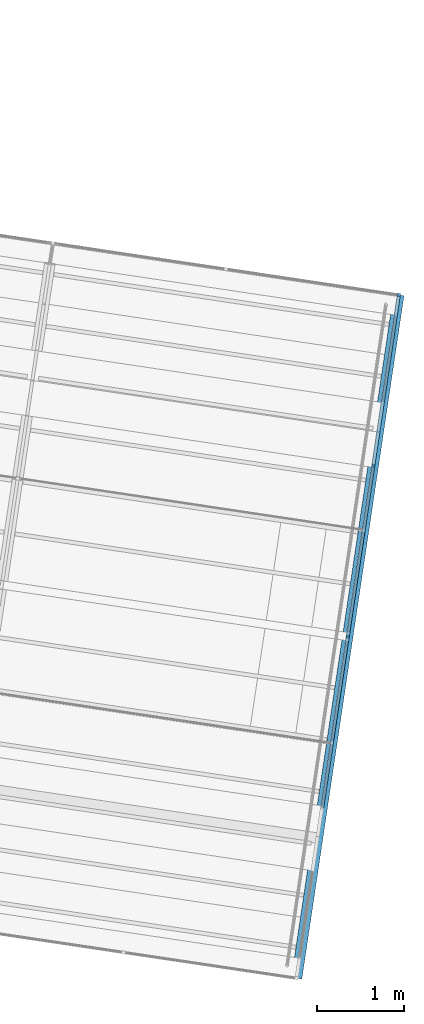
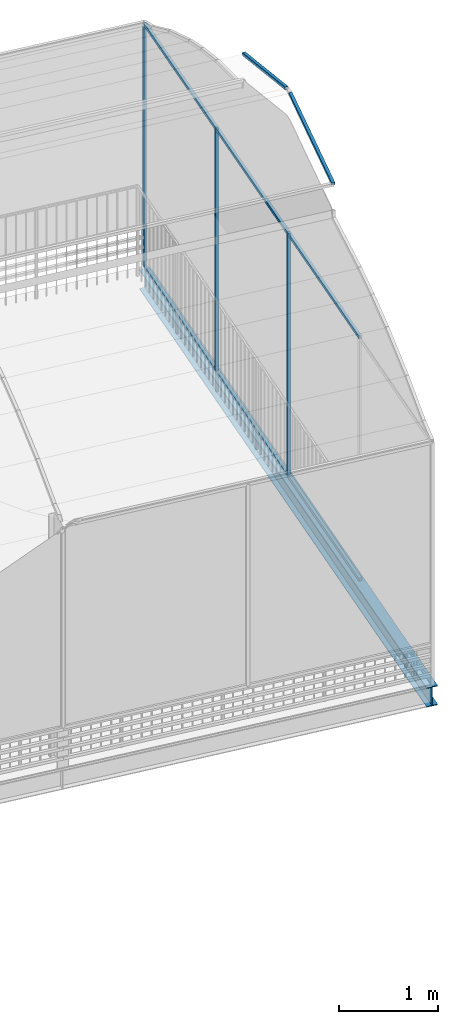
# One storey, part 17 of 34: 14 members, 1 beam, 1 element without a shape of its own.
"""IFC4 building model written with IfcOpenShell, lengths in metres."""

import ifcopenshell
import ifcopenshell.guid

model = None  # the IFC model being written
_history = None  # IfcOwnerHistory: only IFC2X3 demands one
_inside = {}  # id of a spatial element -> (the spatial element, [elements in it])
_under = {}  # id of a project, library or spatial element -> (it, [spatial elements below it])
_declared = {}  # id of a project -> (the project, [libraries it declares])
_typed = {}  # id of a type object -> (the type object, [elements of that type])
_made_of = {}  # id of a material, layer set ... -> (it, [elements and type objects made of it])


def new_model(schema):
    """Start an empty IFC model of exactly this schema.

    Asked for "IFC4X3", IfcOpenShell would pick the latest addendum, in which some entities
    have other attributes; the version numbers below select the first issue.
    IFC2X3 requires an IfcOwnerHistory on every rooted entity: one is made here for all.
    """
    global model, _history
    if schema == "IFC4X3":
        model = ifcopenshell.file(schema_version=(4, 3, 0, 0))
    else:
        model = ifcopenshell.file(schema=schema)
    _inside.clear()
    _under.clear()
    _declared.clear()
    _typed.clear()
    _made_of.clear()
    _history = None
    if model.schema == "IFC2X3":
        org = make("IfcOrganization", Name="unknown")
        user = make(
            "IfcPersonAndOrganization",
            ThePerson=make("IfcPerson", FamilyName="unknown"),
            TheOrganization=org,
        )
        app = make(
            "IfcApplication",
            ApplicationDeveloper=org,
            Version="unknown",
            ApplicationFullName="unknown",
            ApplicationIdentifier="unknown",
        )
        _history = make(
            "IfcOwnerHistory",
            OwningUser=user,
            OwningApplication=app,
            ChangeAction="ADDED",
            CreationDate=0,
        )
    return model


def make(cls, **values):
    """One entity of the class cls with the attributes given. An attribute that is None is left unset."""
    return model.create_entity(
        cls, **{name: value for name, value in values.items() if value is not None}
    )


def rooted(cls, **values):
    """An entity with a GlobalId (a new one), such as an element, a storey or a relation."""
    return make(cls, GlobalId=ifcopenshell.guid.new(), OwnerHistory=_history, **values)


def si_unit(unit_type, name, prefix=None):
    """IfcSIUnit, for example si_unit("LENGTHUNIT", "METRE", prefix="MILLI")."""
    return make("IfcSIUnit", UnitType=unit_type, Prefix=prefix, Name=name)


def assignment(units):
    """IfcUnitAssignment: the units of a project."""
    return None if units is None else make("IfcUnitAssignment", Units=units)


def point(xyz):
    """IfcCartesianPoint."""
    return None if xyz is None else make("IfcCartesianPoint", Coordinates=xyz)


def direction(xyz):
    """IfcDirection."""
    return None if xyz is None else make("IfcDirection", DirectionRatios=xyz)


def frame(location, z_axis=None, x_axis=None):
    """IfcAxis2Placement3D, a coordinate frame: its origin and axes. An axis left out is left unset."""
    return make(
        "IfcAxis2Placement3D",
        Location=point(location),
        Axis=direction(z_axis),
        RefDirection=direction(x_axis),
    )


def origin_with_axes():
    """The frame at (0, 0, 0) with the z axis (0, 0, 1) and the x axis (1, 0, 0) written out."""
    return frame((0.0, 0.0, 0.0), z_axis=(0.0, 0.0, 1.0), x_axis=(1.0, 0.0, 0.0))


def place(relative_to, where):
    """IfcLocalPlacement: puts the frame where relative to a parent placement (None: the world)."""
    return make(
        "IfcLocalPlacement", PlacementRelTo=relative_to, RelativePlacement=where
    )


def context(
    kind, dimensions, precision=None, world=None, true_north=None, identifier=None
):
    """IfcGeometricRepresentationContext, for example the 3D "Model" context."""
    return make(
        "IfcGeometricRepresentationContext",
        ContextIdentifier=identifier,
        ContextType=kind,
        CoordinateSpaceDimension=dimensions,
        Precision=precision,
        WorldCoordinateSystem=world,
        TrueNorth=true_north,
    )


def subcontext(parent, identifier, kind, view, scale=None):
    """IfcGeometricRepresentationSubContext, for example "Body" below "Model"."""
    return make(
        "IfcGeometricRepresentationSubContext",
        ContextIdentifier=identifier,
        ContextType=kind,
        ParentContext=parent,
        TargetScale=scale,
        TargetView=view,
    )


def project(units=None, contexts=None):
    """IfcProject with its units and contexts."""
    return rooted(
        "IfcProject",
        Name="project",
        RepresentationContexts=contexts,
        UnitsInContext=assignment(units),
    )


def spatial(cls, under=None, at=None, **own):
    """A site, building, storey or space (cls), placed at a placement, below another one or the project."""
    s = rooted(cls, ObjectPlacement=at, **own)
    if under is not None:
        _under.setdefault(under.id(), (under, []))[1].append(s)
    return s


def profile(cls, at=None, kind="AREA", **sizes):
    """A parametric profile (cls). Its sizes go by their IFC names, for example OverallWidth=200.0."""
    return make(cls, ProfileType=kind, Position=at, **sizes)


def rectangle(**sizes):
    """IfcRectangleProfileDef."""
    return profile("IfcRectangleProfileDef", **sizes)


def i_section(**sizes):
    """IfcIShapeProfileDef."""
    return profile("IfcIShapeProfileDef", **sizes)


def extrude(swept, where, along, depth):
    """IfcExtrudedAreaSolid: the profile swept, set in the frame where, extruded along a direction by depth."""
    return make(
        "IfcExtrudedAreaSolid",
        SweptArea=swept,
        Position=where,
        ExtrudedDirection=direction(along),
        Depth=depth,
    )


def shape(context_of_items, identifier, shape_type, items):
    """IfcShapeRepresentation: the items that make up one representation, for example the "Body"."""
    return make(
        "IfcShapeRepresentation",
        ContextOfItems=context_of_items,
        RepresentationIdentifier=identifier,
        RepresentationType=shape_type,
        Items=items,
    )


def material(Name=None, Category=None):
    """IfcMaterial."""
    return make("IfcMaterial", Name=Name, Category=Category)


def material_profile(
    of_material, cross_section, Name=None, Category=None, Priority=None
):
    """IfcMaterialProfile: a cross section and its material."""
    return make(
        "IfcMaterialProfile",
        Name=Name,
        Material=of_material,
        Profile=cross_section,
        Priority=Priority,
        Category=Category,
    )


def profile_set(profiles, Name=None, composite=None):
    """IfcMaterialProfileSet."""
    return make(
        "IfcMaterialProfileSet",
        Name=Name,
        MaterialProfiles=profiles,
        CompositeProfile=composite,
    )


def profile_usage(for_profile_set, cardinal=None, extent=None):
    """IfcMaterialProfileSetUsage: how a profile set lies along its element."""
    return make(
        "IfcMaterialProfileSetUsage",
        ForProfileSet=for_profile_set,
        CardinalPoint=cardinal,
        ReferenceExtent=extent,
    )


def made_of(thing, what):
    """Note that an element or type object is made of a material, layer set ...; save() writes the relation."""
    if what is not None:
        _made_of.setdefault(what.id(), (what, []))[1].append(thing)
    return thing


def type_object(cls, material=None, **own):
    """A type object (cls), such as IfcWallType, which elements share."""
    return made_of(rooted(cls, **own), material)


def element(
    cls,
    number,
    at=None,
    inside=None,
    cuts=None,
    type_object=None,
    material=None,
    context=None,
    identifier="Body",
    shape_type=None,
    held_by="IfcProductDefinitionShape",
    body=None,
    shapes=None,
    **own,
):
    """One element of the class cls, such as IfcWall. Its Tag is "e" and its number.

    at: its placement. inside: the storey or other place that contains it. cuts: it is an
    opening in that element (IfcRelVoidsElement). A single representation is given by context,
    identifier, shape_type and body (its items); several are given by shapes. held_by: the class
    of the entity that holds the representations. save() writes the other relations.
    """
    e = rooted(cls, Tag="e%d" % number, ObjectPlacement=at, **own)
    if body is not None:
        shapes = [shape(context, identifier, shape_type, body)]
    if shapes is not None:
        e.Representation = make(held_by, Representations=shapes)
    if inside is not None:
        _inside.setdefault(inside.id(), (inside, []))[1].append(e)
    if cuts is not None:
        rooted(
            "IfcRelVoidsElement", RelatingBuildingElement=cuts, RelatedOpeningElement=e
        )
    if type_object is not None:
        _typed.setdefault(type_object.id(), (type_object, []))[1].append(e)
    return made_of(e, material)


def aggregate(whole, parts):
    """IfcRelAggregates: a whole, such as a stair, and the parts it consists of."""
    return rooted("IfcRelAggregates", RelatingObject=whole, RelatedObjects=parts)


def save(model, path):
    """Write the relations noted so far, then the file.

    IfcRelAggregates (storeys below a building ...), IfcRelContainedInSpatialStructure (elements
    in a storey), IfcRelDefinesByType, IfcRelAssociatesMaterial and IfcRelDeclares: one each for
    every whole, place, type object, material and project.
    """
    for whole, parts in _under.values():
        aggregate(whole, parts)
    for where, things in _inside.values():
        rooted(
            "IfcRelContainedInSpatialStructure",
            RelatedElements=things,
            RelatingStructure=where,
        )
    for kind, things in _typed.values():
        rooted("IfcRelDefinesByType", RelatedObjects=things, RelatingType=kind)
    for what, things in _made_of.values():
        rooted("IfcRelAssociatesMaterial", RelatedObjects=things, RelatingMaterial=what)
    for by, libraries in _declared.values():
        rooted("IfcRelDeclares", RelatingContext=by, RelatedDefinitions=libraries)
    model.write(path)


model = new_model("IFC4")

# Units and contexts
model_context = context("Model", 3, precision=1e-05, world=origin_with_axes(), true_north=direction((0.0, 1.0)))
body_context = subcontext(model_context, "Body", "Model", "MODEL_VIEW")
ifc_project = project(units=[si_unit("AREAUNIT", "SQUARE_METRE"), si_unit("VOLUMEUNIT", "CUBIC_METRE"), si_unit("LENGTHUNIT", "METRE")], contexts=[model_context])

# Site, building, storey
site_placement = place(None, origin_with_axes())
site = spatial("IfcSite", under=ifc_project, at=site_placement, Name="Lares · Rua das Mercês · artigo 4771")
building_placement = place(site_placement, frame((15.0, 9.7, 14.65), z_axis=(0.0, 0.0, 1.0), x_axis=(0.989015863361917, -0.147809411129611, 0.0)))
building = spatial("IfcBuilding", under=site, at=building_placement, Name="Casa Sobreposta")
storey_placement = place(building_placement, frame((0.0, 0.0, 3.24), z_axis=(0.0, 0.0, 1.0), x_axis=(1.0, 0.0, 0.0)))
storey = spatial("IfcBuildingStorey", under=building, at=storey_placement, Name="01 · Jardim de inverno", Elevation=17.89)

# Beam
ifc_material_1 = material(Name="Aço pintado / Stahl lackiert", Category="steel")
ifc_material_profile_1 = material_profile(ifc_material_1, i_section(OverallWidth=0.12, OverallDepth=0.24, WebThickness=0.0062, FlangeThickness=0.0098))
ifc_profile_set_1 = profile_set([ifc_material_profile_1], Name="IPE240")
ifc_profile_usage_1 = profile_usage(ifc_profile_set_1)
beam_type = type_object("IfcBeamType", Name="IPE240 / steel", PredefinedType="NOTDEFINED", material=ifc_profile_set_1)
beam_placement = place(storey_placement, frame((32.0, -1.5, -0.152), z_axis=(0.0, 1.0, 0.0), x_axis=(1.0, 0.0, 0.0)))
element("IfcBeam", 1, at=beam_placement, inside=storey, type_object=beam_type, material=ifc_profile_usage_1, Name="Viga transversal eixo 32", context=body_context, shape_type="SweptSolid", body=[
    extrude(i_section(OverallWidth=0.12, OverallDepth=0.24, WebThickness=0.0062, FlangeThickness=0.0098), origin_with_axes(), (0.0, 0.0, 1.0), 7.9),
])

# Members
ifc_material_profile_2 = material_profile(ifc_material_1, rectangle(XDim=0.035, YDim=0.035))
ifc_profile_set_2 = profile_set([ifc_material_profile_2], Name="R0.035")
ifc_profile_usage_2 = profile_usage(ifc_profile_set_2)
member_type = type_object("IfcMemberType", Name="R0.035 / steel", PredefinedType="NOTDEFINED", material=ifc_profile_set_2)
member_1_placement = place(storey_placement, frame((32.0, 6.4, 0.5), z_axis=(0.0, 0.0, 1.0), x_axis=(1.0, 0.0, 0.0)))
element("IfcMember", 2, at=member_1_placement, inside=storey, type_object=member_type, material=ifc_profile_usage_2, Name="Estufa norte 16 · montante", context=body_context, shape_type="SweptSolid", body=[
    extrude(rectangle(XDim=0.035, YDim=0.035), origin_with_axes(), (0.0, 0.0, 1.0), 2.48),
])
ifc_profile_usage_3 = profile_usage(ifc_profile_set_2)
member_2_placement = place(storey_placement, frame((32.0, 2.45, 0.0), z_axis=(0.0, 0.0, 1.0), x_axis=(1.0, 0.0, 0.0)))
element("IfcMember", 3, at=member_2_placement, inside=storey, type_object=member_type, material=ifc_profile_usage_3, context=body_context, shape_type="SweptSolid", body=[
    extrude(rectangle(XDim=0.035, YDim=0.035), origin_with_axes(), (0.0, 0.0, 1.0), 2.98),
])
ifc_profile_usage_4 = profile_usage(ifc_profile_set_2)
member_3_placement = place(storey_placement, frame((32.0, 0.475, 0.0), z_axis=(0.0, 1.0, 0.0), x_axis=(1.0, 0.0, 0.0)))
element("IfcMember", 4, at=member_3_placement, inside=storey, type_object=member_type, material=ifc_profile_usage_4, Name="Estufa nascente 2 · travessa", context=body_context, shape_type="SweptSolid", body=[
    extrude(rectangle(XDim=0.035, YDim=0.035), origin_with_axes(), (0.0, 0.0, 1.0), 1.975),
])
ifc_profile_usage_5 = profile_usage(ifc_profile_set_2)
member_4_placement = place(storey_placement, frame((32.0, 0.475, 2.98), z_axis=(0.0, 1.0, 0.0), x_axis=(1.0, 0.0, 0.0)))
element("IfcMember", 5, at=member_4_placement, inside=storey, type_object=member_type, material=ifc_profile_usage_5, Name="Estufa nascente 2 · travessa", context=body_context, shape_type="SweptSolid", body=[
    extrude(rectangle(XDim=0.035, YDim=0.035), origin_with_axes(), (0.0, 0.0, 1.0), 1.975),
])
ifc_profile_usage_6 = profile_usage(ifc_profile_set_2)
member_5_placement = place(storey_placement, frame((32.0, 2.45, 0.0), z_axis=(0.0, 0.0, 1.0), x_axis=(1.0, 0.0, 0.0)))
element("IfcMember", 6, at=member_5_placement, inside=storey, type_object=member_type, material=ifc_profile_usage_6, context=body_context, shape_type="SweptSolid", body=[
    extrude(rectangle(XDim=0.035, YDim=0.035), origin_with_axes(), (0.0, 0.0, 1.0), 2.98),
])
ifc_profile_usage_7 = profile_usage(ifc_profile_set_2)
member_6_placement = place(storey_placement, frame((32.0, 4.425, 0.0), z_axis=(0.0, 0.0, 1.0), x_axis=(1.0, 0.0, 0.0)))
element("IfcMember", 7, at=member_6_placement, inside=storey, type_object=member_type, material=ifc_profile_usage_7, context=body_context, shape_type="SweptSolid", body=[
    extrude(rectangle(XDim=0.035, YDim=0.035), origin_with_axes(), (0.0, 0.0, 1.0), 2.98),
])
ifc_profile_usage_8 = profile_usage(ifc_profile_set_2)
member_7_placement = place(storey_placement, frame((32.0, 2.45, 0.0), z_axis=(0.0, 1.0, 0.0), x_axis=(1.0, 0.0, 0.0)))
element("IfcMember", 8, at=member_7_placement, inside=storey, type_object=member_type, material=ifc_profile_usage_8, Name="Estufa nascente 3 · travessa", context=body_context, shape_type="SweptSolid", body=[
    extrude(rectangle(XDim=0.035, YDim=0.035), origin_with_axes(), (0.0, 0.0, 1.0), 1.975),
])
ifc_profile_usage_9 = profile_usage(ifc_profile_set_2)
member_8_placement = place(storey_placement, frame((32.0, 2.45, 2.98), z_axis=(0.0, 1.0, 0.0), x_axis=(1.0, 0.0, 0.0)))
element("IfcMember", 9, at=member_8_placement, inside=storey, type_object=member_type, material=ifc_profile_usage_9, Name="Estufa nascente 3 · travessa", context=body_context, shape_type="SweptSolid", body=[
    extrude(rectangle(XDim=0.035, YDim=0.035), origin_with_axes(), (0.0, 0.0, 1.0), 1.975),
])
ifc_profile_usage_10 = profile_usage(ifc_profile_set_2)
member_9_placement = place(storey_placement, frame((32.0, 4.425, 0.0), z_axis=(0.0, 0.0, 1.0), x_axis=(1.0, 0.0, 0.0)))
element("IfcMember", 10, at=member_9_placement, inside=storey, type_object=member_type, material=ifc_profile_usage_10, context=body_context, shape_type="SweptSolid", body=[
    extrude(rectangle(XDim=0.035, YDim=0.035), origin_with_axes(), (0.0, 0.0, 1.0), 2.98),
])
ifc_profile_usage_11 = profile_usage(ifc_profile_set_2)
member_10_placement = place(storey_placement, frame((32.0, 6.4, 0.0), z_axis=(0.0, 0.0, 1.0), x_axis=(1.0, 0.0, 0.0)))
element("IfcMember", 11, at=member_10_placement, inside=storey, type_object=member_type, material=ifc_profile_usage_11, Name="Estufa nascente 4 · montante", context=body_context, shape_type="SweptSolid", body=[
    extrude(rectangle(XDim=0.035, YDim=0.035), origin_with_axes(), (0.0, 0.0, 1.0), 2.98),
])
ifc_profile_usage_12 = profile_usage(ifc_profile_set_2)
member_11_placement = place(storey_placement, frame((32.0, 4.425, 0.0), z_axis=(0.0, 1.0, 0.0), x_axis=(1.0, 0.0, 0.0)))
element("IfcMember", 12, at=member_11_placement, inside=storey, type_object=member_type, material=ifc_profile_usage_12, Name="Estufa nascente 4 · travessa", context=body_context, shape_type="SweptSolid", body=[
    extrude(rectangle(XDim=0.035, YDim=0.035), origin_with_axes(), (0.0, 0.0, 1.0), 1.975),
])
ifc_profile_usage_13 = profile_usage(ifc_profile_set_2)
member_12_placement = place(storey_placement, frame((32.0, 4.425, 2.98), z_axis=(0.0, 1.0, 0.0), x_axis=(1.0, 0.0, 0.0)))
element("IfcMember", 13, at=member_12_placement, inside=storey, type_object=member_type, material=ifc_profile_usage_13, Name="Estufa nascente 4 · travessa", context=body_context, shape_type="SweptSolid", body=[
    extrude(rectangle(XDim=0.035, YDim=0.035), origin_with_axes(), (0.0, 0.0, 1.0), 1.975),
])

# Roof, members
ifc_material_2 = material(Name="Vidro / Normalglas", Category="glass")
roof_placement = place(storey_placement, frame((0.0, 0.0, -3.24), z_axis=(0.0, 0.0, 1.0), x_axis=(1.0, 0.0, 0.0)))
roof = element("IfcRoof", 14, at=roof_placement, inside=storey, material=ifc_material_2, Name="Cobertura translúcida da estufa", PredefinedType="BARREL_ROOF")
ifc_profile_usage_14 = profile_usage(ifc_profile_set_2)
member_13_placement = place(roof_placement, frame((32.0, 1.22042020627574, 7.62067689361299), z_axis=(0.0, 0.960073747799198, 0.279747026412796), x_axis=(1.0, 0.0, 0.0)))
member_13 = element("IfcMember", 15, at=member_13_placement, type_object=member_type, material=ifc_profile_usage_14, Name="Arco estufa 32/7", context=body_context, shape_type="SweptSolid", body=[
    extrude(rectangle(XDim=0.035, YDim=0.035), origin_with_axes(), (0.0, 0.0, 1.0), 1.23148937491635),
])
ifc_profile_usage_15 = profile_usage(ifc_profile_set_2)
member_14_placement = place(roof_placement, frame((32.0, 2.49770027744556, 7.96518238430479), z_axis=(0.0, 0.96007374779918, -0.279747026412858), x_axis=(1.0, 0.0, 0.0)))
member_14 = element("IfcMember", 16, at=member_14_placement, type_object=member_type, material=ifc_profile_usage_15, Name="Arco estufa 32/9", context=body_context, shape_type="SweptSolid", body=[
    extrude(rectangle(XDim=0.035, YDim=0.035), origin_with_axes(), (0.0, 0.0, 1.0), 1.23148937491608),
])
aggregate(roof, [member_13, member_14])

save(model, "model.ifc")
